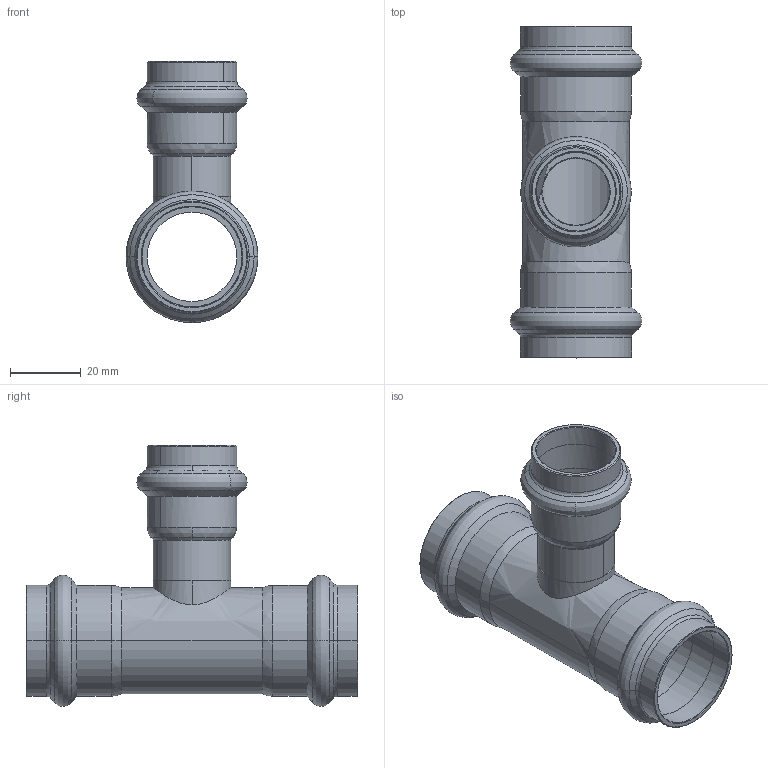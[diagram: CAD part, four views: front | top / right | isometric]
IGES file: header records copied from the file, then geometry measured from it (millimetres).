
Start section: Elysium IGES Interface
Global section: file name: C:\3d modellen sudo\C-Pr VP\SP8130RV\8130RVW282228.igs; native system: CoCreate Modeling 17.00A  17-Jun-2010; preprocessor: CoCreate IGES_3D V2.2; author: Unknown; organization: Unknown; date: 20130131.143921; units: millimetre
Bounding box: 37.2 x 93.81 x 73.83 mm (x, y, z)
Volume: 21707.1 mm3; surface area: 24637.6 mm2
Topology: 1 solids, 1 shells, 128 faces, 296 edges, 176 vertices
Faces by surface type: bspline 128
